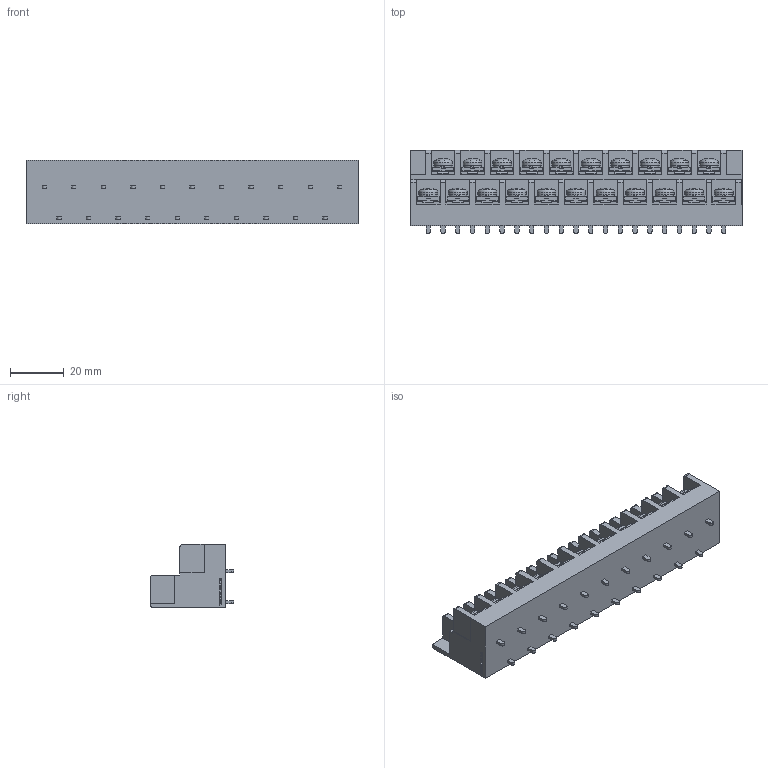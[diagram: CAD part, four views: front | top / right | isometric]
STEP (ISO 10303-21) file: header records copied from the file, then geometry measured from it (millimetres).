
FILE_DESCRIPTION(/* description */ ('Alibre Inc.'),/* implementation_level */ '2;1');
FILE_NAME(/* name */ 'export0',/* time_stamp */ '2016-08-06T13:50:41+09:00',/* author */ (''),/* organization */ (''),/* preprocessor_version */ 'ST-DEVELOPER v14',/* originating_system */ 'Alibre',/* authorisation */ '');
FILE_SCHEMA (('CONFIG_CONTROL_DESIGN'));
Length unit declared in the file: centimetre
Products named in the file (1): ID_1
Bounding box: 123.6 x 31 x 23.5 mm (x, y, z)
Volume: 52254.1 mm3; surface area: 24249 mm2
Topology: 1 solids, 177 shells, 4210 faces, 11013 edges, 7251 vertices
Faces by surface type: plane 3268, bspline 624, cylinder 171, cone 84, torus 42, sphere 21
Full cylindrical faces by diameter (mm): 4 x21, 7 x21
Entity records: 122894 total; most frequent: CARTESIAN_POINT 28101, ORIENTED_EDGE 21984, DIRECTION 13855, EDGE_CURVE 10908, VECTOR 8237, LINE 8237, VERTEX_POINT 7230, EDGE_LOOP 4560
